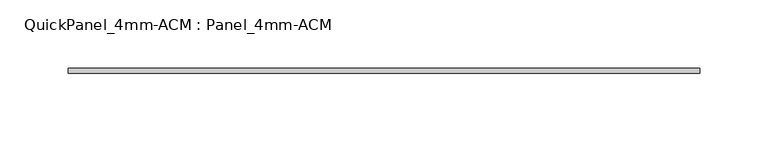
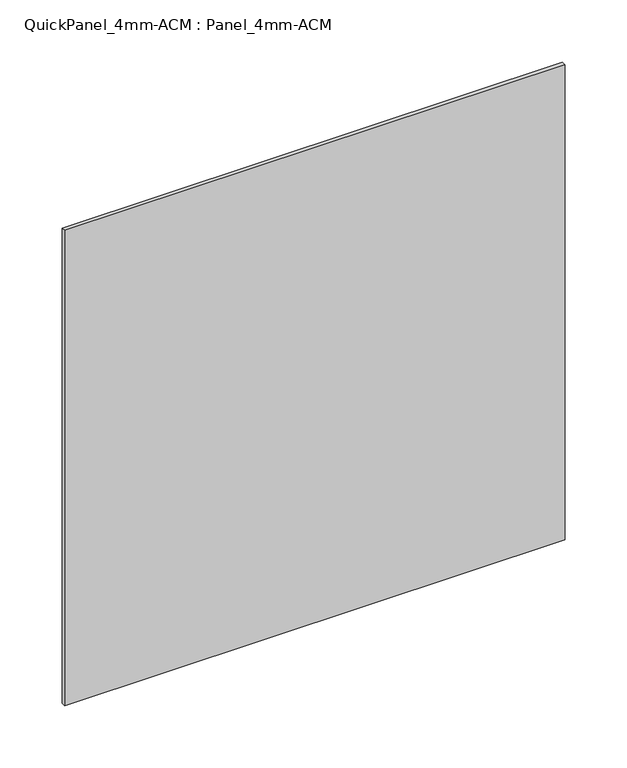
"""IFC4 building model written with IfcOpenShell, lengths in millimetres: plate geometry, QuickPanel_4mm-ACM : Panel_4mm-ACM."""

from ifc_helpers import new_model, si_unit, origin, origin_with_axes, place, context, project, spatial, polyline, outline, extrude, source, transform, mapped, element, save


def quickpanel_4mm_acm_panel_4mm_acm_73361369(model_context):
    return source(origin(), model_context, "Body", "SweptSolid", [
        extrude(outline(polyline([(-231.83849, 6.096), (-231.83849, 9.906), (231.83849, 9.906), (231.83849, 6.096), (-231.83849, 6.096)])), origin_with_axes(), (0.0, 0.0, 1.0), 465.6618949),
    ])


if __name__ == "__main__":
    model = new_model("IFC4")
    model_context = context("Model", 3, world=origin())
    ifc_project = project(units=[si_unit("LENGTHUNIT", "METRE", prefix="MILLI")], contexts=[model_context])
    site = spatial("IfcSite", under=ifc_project)
    building = spatial("IfcBuilding", under=site)
    placement = place(None, origin())
    quickpanel_4mm_acm_panel_4mm_acm_shape = quickpanel_4mm_acm_panel_4mm_acm_73361369(model_context)
    element("IfcPlate", 1, ObjectType="QuickPanel_4mm-ACM : Panel_4mm-ACM", at=placement, inside=building, context=model_context, shape_type="MappedRepresentation", body=[
        mapped(quickpanel_4mm_acm_panel_4mm_acm_shape, transform((0.0, 0.0, 0.0), x_axis=(1.0, 0.0, 0.0), y_axis=(0.0, 1.0, 0.0), z_axis=(0.0, 0.0, 1.0))),
    ])
    save(model, "model.ifc")
